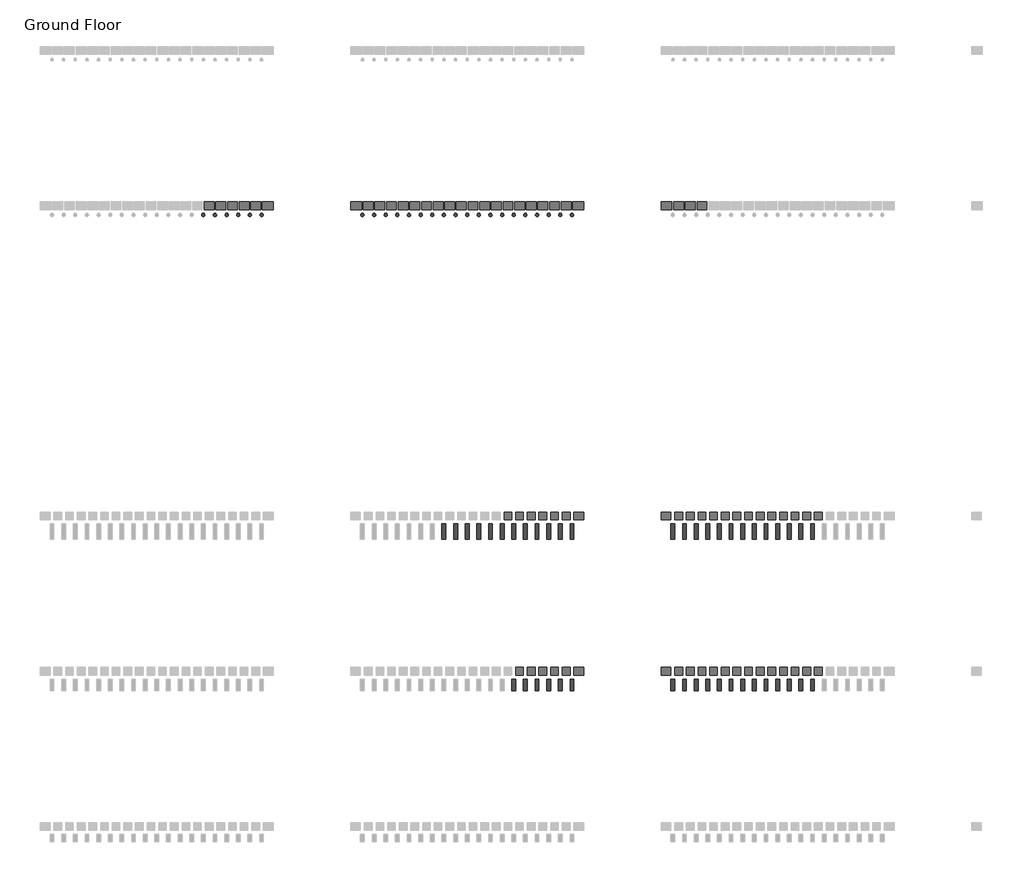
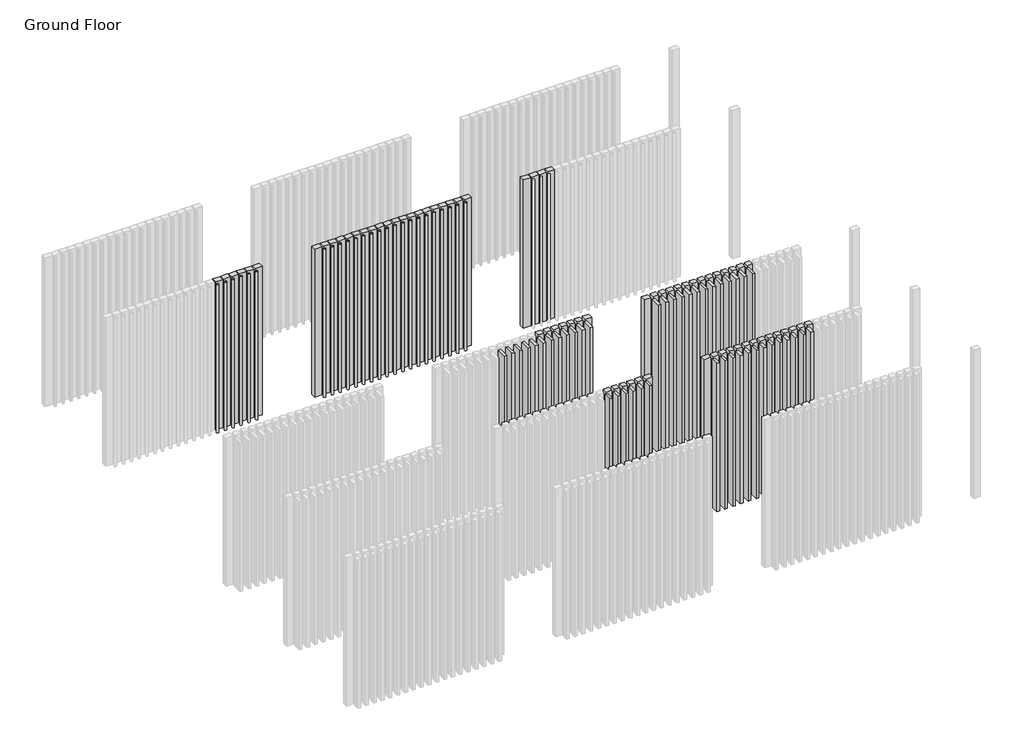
# One storey, part 17 of 350: 71 plates, 69 members.
"""IFC4 building model written with IfcOpenShell, lengths in millimetres."""

from ifc_helpers import new_model, si_unit, origin, place, context, project, spatial, transform, mapped, element, save
from components import rectangular_mullion_26362614, rectangular_mullion_afeb8ef8, rectangular_mullion_d8d867ca, empty_system_panel_empty_a8601f27, empty_system_panel_empty_23ba90fe, empty_system_panel_empty_02e968fa, empty_system_panel_empty_b0a57c37, empty_system_panel_empty_a9f5b765, empty_system_panel_empty_5da2f048

model = new_model("IFC4")

# Units and contexts
model_context = context("Model", 3, world=origin())
ifc_project = project(units=[si_unit("LENGTHUNIT", "METRE", prefix="MILLI")], contexts=[model_context])

# Site, building, storey
site = spatial("IfcSite", under=ifc_project)
building = spatial("IfcBuilding", under=site)
storey = spatial("IfcBuildingStorey", under=building, Name="Ground Floor", Elevation=0.0)

# Members
placement = place(None, origin())
rectangular_mullion_shape = rectangular_mullion_26362614(model_context)
element("IfcMember", 1, ObjectType="Rectangular Mullion : Batten_Aluminium_Modinex_AluBatten_50x150_SpottedGum", at=placement, inside=storey, context=model_context, shape_type="MappedRepresentation", body=[
    mapped(rectangular_mullion_shape, transform((14066.4361642, 24968.2978302, 0.0), x_axis=(1.0, 0.0, 0.0), y_axis=(0.0, -1.0, 0.0), z_axis=(0.0, 0.0, -1.0))),
])
element("IfcMember", 2, ObjectType="Rectangular Mullion : Batten_Aluminium_Modinex_AluBatten_50x150_SpottedGum", at=placement, inside=storey, context=model_context, shape_type="MappedRepresentation", body=[
    mapped(rectangular_mullion_shape, transform((14216.4361642, 24968.2978302, 0.0), x_axis=(1.0, 0.0, 0.0), y_axis=(0.0, -1.0, 0.0), z_axis=(0.0, 0.0, -1.0))),
])
element("IfcMember", 3, ObjectType="Rectangular Mullion : Batten_Aluminium_Modinex_AluBatten_50x150_SpottedGum", at=placement, inside=storey, context=model_context, shape_type="MappedRepresentation", body=[
    mapped(rectangular_mullion_shape, transform((14366.4361642, 24968.2978302, 0.0), x_axis=(1.0, 0.0, 0.0), y_axis=(0.0, -1.0, 0.0), z_axis=(0.0, 0.0, -1.0))),
])
element("IfcMember", 4, ObjectType="Rectangular Mullion : Batten_Aluminium_Modinex_AluBatten_50x150_SpottedGum", at=placement, inside=storey, context=model_context, shape_type="MappedRepresentation", body=[
    mapped(rectangular_mullion_shape, transform((14516.4361642, 24968.2978302, 0.0), x_axis=(1.0, 0.0, 0.0), y_axis=(0.0, -1.0, 0.0), z_axis=(0.0, 0.0, -1.0))),
])
element("IfcMember", 5, ObjectType="Rectangular Mullion : Batten_Aluminium_Modinex_AluBatten_50x150_SpottedGum", at=placement, inside=storey, context=model_context, shape_type="MappedRepresentation", body=[
    mapped(rectangular_mullion_shape, transform((14666.4361642, 24968.2978302, 0.0), x_axis=(1.0, 0.0, 0.0), y_axis=(0.0, -1.0, 0.0), z_axis=(0.0, 0.0, -1.0))),
])
element("IfcMember", 6, ObjectType="Rectangular Mullion : Batten_Aluminium_Modinex_AluBatten_50x150_SpottedGum", at=placement, inside=storey, context=model_context, shape_type="MappedRepresentation", body=[
    mapped(rectangular_mullion_shape, transform((14816.4361642, 24968.2978302, 0.0), x_axis=(1.0, 0.0, 0.0), y_axis=(0.0, -1.0, 0.0), z_axis=(0.0, 0.0, -1.0))),
])
element("IfcMember", 7, ObjectType="Rectangular Mullion : Batten_Aluminium_Modinex_AluBatten_50x150_SpottedGum", at=placement, inside=storey, context=model_context, shape_type="MappedRepresentation", body=[
    mapped(rectangular_mullion_shape, transform((14966.4361642, 24968.2978302, 0.0), x_axis=(1.0, 0.0, 0.0), y_axis=(0.0, -1.0, 0.0), z_axis=(0.0, 0.0, -1.0))),
])
element("IfcMember", 8, ObjectType="Rectangular Mullion : Batten_Aluminium_Modinex_AluBatten_50x150_SpottedGum", at=placement, inside=storey, context=model_context, shape_type="MappedRepresentation", body=[
    mapped(rectangular_mullion_shape, transform((15116.4361642, 24968.2978302, 0.0), x_axis=(1.0, 0.0, 0.0), y_axis=(0.0, -1.0, 0.0), z_axis=(0.0, 0.0, -1.0))),
])
element("IfcMember", 9, ObjectType="Rectangular Mullion : Batten_Aluminium_Modinex_AluBatten_50x150_SpottedGum", at=placement, inside=storey, context=model_context, shape_type="MappedRepresentation", body=[
    mapped(rectangular_mullion_shape, transform((15266.4361642, 24968.2978302, 0.0), x_axis=(1.0, 0.0, 0.0), y_axis=(0.0, -1.0, 0.0), z_axis=(0.0, 0.0, -1.0))),
])
element("IfcMember", 10, ObjectType="Rectangular Mullion : Batten_Aluminium_Modinex_AluBatten_50x150_SpottedGum", at=placement, inside=storey, context=model_context, shape_type="MappedRepresentation", body=[
    mapped(rectangular_mullion_shape, transform((15416.4361642, 24968.2978302, 0.0), x_axis=(1.0, 0.0, 0.0), y_axis=(0.0, -1.0, 0.0), z_axis=(0.0, 0.0, -1.0))),
])
element("IfcMember", 11, ObjectType="Rectangular Mullion : Batten_Aluminium_Modinex_AluBatten_50x150_SpottedGum", at=placement, inside=storey, context=model_context, shape_type="MappedRepresentation", body=[
    mapped(rectangular_mullion_shape, transform((15566.4361642, 24968.2978302, 0.0), x_axis=(1.0, 0.0, 0.0), y_axis=(0.0, -1.0, 0.0), z_axis=(0.0, 0.0, -1.0))),
])
element("IfcMember", 12, ObjectType="Rectangular Mullion : Batten_Aluminium_Modinex_AluBatten_50x150_SpottedGum", at=placement, inside=storey, context=model_context, shape_type="MappedRepresentation", body=[
    mapped(rectangular_mullion_shape, transform((15716.4361642, 24968.2978302, 0.0), x_axis=(1.0, 0.0, 0.0), y_axis=(0.0, -1.0, 0.0), z_axis=(0.0, 0.0, -1.0))),
])
element("IfcMember", 13, ObjectType="Rectangular Mullion : Batten_Aluminium_Modinex_AluBatten_50x150_SpottedGum", at=placement, inside=storey, context=model_context, shape_type="MappedRepresentation", body=[
    mapped(rectangular_mullion_shape, transform((15866.4361642, 24968.2978302, 0.0), x_axis=(1.0, 0.0, 0.0), y_axis=(0.0, -1.0, 0.0), z_axis=(0.0, 0.0, -1.0))),
])
element("IfcMember", 14, ObjectType="Rectangular Mullion : Batten_Aluminium_Modinex_AluBatten_50x150_EnglishOak", at=placement, inside=storey, context=model_context, shape_type="MappedRepresentation", body=[
    mapped(rectangular_mullion_shape, transform((12016.4361642, 24968.2978302, 0.0), x_axis=(1.0, 0.0, 0.0), y_axis=(0.0, -1.0, 0.0), z_axis=(0.0, 0.0, -1.0))),
])
element("IfcMember", 15, ObjectType="Rectangular Mullion : Batten_Aluminium_Modinex_AluBatten_50x150_EnglishOak", at=placement, inside=storey, context=model_context, shape_type="MappedRepresentation", body=[
    mapped(rectangular_mullion_shape, transform((12166.4361642, 24968.2978302, 0.0), x_axis=(1.0, 0.0, 0.0), y_axis=(0.0, -1.0, 0.0), z_axis=(0.0, 0.0, -1.0))),
])
element("IfcMember", 16, ObjectType="Rectangular Mullion : Batten_Aluminium_Modinex_AluBatten_50x150_EnglishOak", at=placement, inside=storey, context=model_context, shape_type="MappedRepresentation", body=[
    mapped(rectangular_mullion_shape, transform((12316.4361642, 24968.2978302, 0.0), x_axis=(1.0, 0.0, 0.0), y_axis=(0.0, -1.0, 0.0), z_axis=(0.0, 0.0, -1.0))),
])
element("IfcMember", 17, ObjectType="Rectangular Mullion : Batten_Aluminium_Modinex_AluBatten_50x150_EnglishOak", at=placement, inside=storey, context=model_context, shape_type="MappedRepresentation", body=[
    mapped(rectangular_mullion_shape, transform((12466.4361642, 24968.2978302, 0.0), x_axis=(1.0, 0.0, 0.0), y_axis=(0.0, -1.0, 0.0), z_axis=(0.0, 0.0, -1.0))),
])
element("IfcMember", 18, ObjectType="Rectangular Mullion : Batten_Aluminium_Modinex_AluBatten_50x150_EnglishOak", at=placement, inside=storey, context=model_context, shape_type="MappedRepresentation", body=[
    mapped(rectangular_mullion_shape, transform((12616.4361642, 24968.2978302, 0.0), x_axis=(1.0, 0.0, 0.0), y_axis=(0.0, -1.0, 0.0), z_axis=(0.0, 0.0, -1.0))),
])
element("IfcMember", 19, ObjectType="Rectangular Mullion : Batten_Aluminium_Modinex_AluBatten_50x150_EnglishOak", at=placement, inside=storey, context=model_context, shape_type="MappedRepresentation", body=[
    mapped(rectangular_mullion_shape, transform((12766.4361642, 24968.2978302, 0.0), x_axis=(1.0, 0.0, 0.0), y_axis=(0.0, -1.0, 0.0), z_axis=(0.0, 0.0, -1.0))),
])
rectangular_mullion_2_shape = rectangular_mullion_afeb8ef8(model_context)
element("IfcMember", 20, ObjectType="Rectangular Mullion : Batten_Aluminium_Modinex_AluBatten_50x200_EnglishOak", at=placement, inside=storey, context=model_context, shape_type="MappedRepresentation", body=[
    mapped(rectangular_mullion_2_shape, transform((11116.4361642, 26968.2978302, 0.0), x_axis=(1.0, 0.0, 0.0), y_axis=(0.0, -1.0, 0.0), z_axis=(0.0, 0.0, -1.0))),
])
element("IfcMember", 21, ObjectType="Rectangular Mullion : Batten_Aluminium_Modinex_AluBatten_50x200_EnglishOak", at=placement, inside=storey, context=model_context, shape_type="MappedRepresentation", body=[
    mapped(rectangular_mullion_2_shape, transform((11266.4361642, 26968.2978302, 0.0), x_axis=(1.0, 0.0, 0.0), y_axis=(0.0, -1.0, 0.0), z_axis=(0.0, 0.0, -1.0))),
])
element("IfcMember", 22, ObjectType="Rectangular Mullion : Batten_Aluminium_Modinex_AluBatten_50x200_EnglishOak", at=placement, inside=storey, context=model_context, shape_type="MappedRepresentation", body=[
    mapped(rectangular_mullion_2_shape, transform((11416.4361642, 26968.2978302, 0.0), x_axis=(1.0, 0.0, 0.0), y_axis=(0.0, -1.0, 0.0), z_axis=(0.0, 0.0, -1.0))),
])
element("IfcMember", 23, ObjectType="Rectangular Mullion : Batten_Aluminium_Modinex_AluBatten_50x200_EnglishOak", at=placement, inside=storey, context=model_context, shape_type="MappedRepresentation", body=[
    mapped(rectangular_mullion_2_shape, transform((11566.4361642, 26968.2978302, 0.0), x_axis=(1.0, 0.0, 0.0), y_axis=(0.0, -1.0, 0.0), z_axis=(0.0, 0.0, -1.0))),
])
element("IfcMember", 24, ObjectType="Rectangular Mullion : Batten_Aluminium_Modinex_AluBatten_50x200_EnglishOak", at=placement, inside=storey, context=model_context, shape_type="MappedRepresentation", body=[
    mapped(rectangular_mullion_2_shape, transform((11716.4361642, 26968.2978302, 0.0), x_axis=(1.0, 0.0, 0.0), y_axis=(0.0, -1.0, 0.0), z_axis=(0.0, 0.0, -1.0))),
])
element("IfcMember", 25, ObjectType="Rectangular Mullion : Batten_Aluminium_Modinex_AluBatten_50x200_EnglishOak", at=placement, inside=storey, context=model_context, shape_type="MappedRepresentation", body=[
    mapped(rectangular_mullion_2_shape, transform((11866.4361642, 26968.2978302, 0.0), x_axis=(1.0, 0.0, 0.0), y_axis=(0.0, -1.0, 0.0), z_axis=(0.0, 0.0, -1.0))),
])
element("IfcMember", 26, ObjectType="Rectangular Mullion : Batten_Aluminium_Modinex_AluBatten_50x200_EnglishOak", at=placement, inside=storey, context=model_context, shape_type="MappedRepresentation", body=[
    mapped(rectangular_mullion_2_shape, transform((12016.4361642, 26968.2978302, 0.0), x_axis=(1.0, 0.0, 0.0), y_axis=(0.0, -1.0, 0.0), z_axis=(0.0, 0.0, -1.0))),
])
element("IfcMember", 27, ObjectType="Rectangular Mullion : Batten_Aluminium_Modinex_AluBatten_50x200_EnglishOak", at=placement, inside=storey, context=model_context, shape_type="MappedRepresentation", body=[
    mapped(rectangular_mullion_2_shape, transform((12166.4361642, 26968.2978302, 0.0), x_axis=(1.0, 0.0, 0.0), y_axis=(0.0, -1.0, 0.0), z_axis=(0.0, 0.0, -1.0))),
])
element("IfcMember", 28, ObjectType="Rectangular Mullion : Batten_Aluminium_Modinex_AluBatten_50x200_EnglishOak", at=placement, inside=storey, context=model_context, shape_type="MappedRepresentation", body=[
    mapped(rectangular_mullion_2_shape, transform((12316.4361642, 26968.2978302, 0.0), x_axis=(1.0, 0.0, 0.0), y_axis=(0.0, -1.0, 0.0), z_axis=(0.0, 0.0, -1.0))),
])
element("IfcMember", 29, ObjectType="Rectangular Mullion : Batten_Aluminium_Modinex_AluBatten_50x200_EnglishOak", at=placement, inside=storey, context=model_context, shape_type="MappedRepresentation", body=[
    mapped(rectangular_mullion_2_shape, transform((12466.4361642, 26968.2978302, 0.0), x_axis=(1.0, 0.0, 0.0), y_axis=(0.0, -1.0, 0.0), z_axis=(0.0, 0.0, -1.0))),
])
element("IfcMember", 30, ObjectType="Rectangular Mullion : Batten_Aluminium_Modinex_AluBatten_50x200_EnglishOak", at=placement, inside=storey, context=model_context, shape_type="MappedRepresentation", body=[
    mapped(rectangular_mullion_2_shape, transform((12616.4361642, 26968.2978302, 0.0), x_axis=(1.0, 0.0, 0.0), y_axis=(0.0, -1.0, 0.0), z_axis=(0.0, 0.0, -1.0))),
])
element("IfcMember", 31, ObjectType="Rectangular Mullion : Batten_Aluminium_Modinex_AluBatten_50x200_EnglishOak", at=placement, inside=storey, context=model_context, shape_type="MappedRepresentation", body=[
    mapped(rectangular_mullion_2_shape, transform((12766.4361642, 26968.2978302, 0.0), x_axis=(1.0, 0.0, 0.0), y_axis=(0.0, -1.0, 0.0), z_axis=(0.0, 0.0, -1.0))),
])
element("IfcMember", 32, ObjectType="Rectangular Mullion : Batten_Aluminium_Modinex_AluBatten_50x200_SpottedGum", at=placement, inside=storey, context=model_context, shape_type="MappedRepresentation", body=[
    mapped(rectangular_mullion_2_shape, transform((14066.4361642, 26968.2978302, 0.0), x_axis=(1.0, 0.0, 0.0), y_axis=(0.0, -1.0, 0.0), z_axis=(0.0, 0.0, -1.0))),
])
element("IfcMember", 33, ObjectType="Rectangular Mullion : Batten_Aluminium_Modinex_AluBatten_50x200_SpottedGum", at=placement, inside=storey, context=model_context, shape_type="MappedRepresentation", body=[
    mapped(rectangular_mullion_2_shape, transform((14216.4361642, 26968.2978302, 0.0), x_axis=(1.0, 0.0, 0.0), y_axis=(0.0, -1.0, 0.0), z_axis=(0.0, 0.0, -1.0))),
])
element("IfcMember", 34, ObjectType="Rectangular Mullion : Batten_Aluminium_Modinex_AluBatten_50x200_SpottedGum", at=placement, inside=storey, context=model_context, shape_type="MappedRepresentation", body=[
    mapped(rectangular_mullion_2_shape, transform((14366.4361642, 26968.2978302, 0.0), x_axis=(1.0, 0.0, 0.0), y_axis=(0.0, -1.0, 0.0), z_axis=(0.0, 0.0, -1.0))),
])
element("IfcMember", 35, ObjectType="Rectangular Mullion : Batten_Aluminium_Modinex_AluBatten_50x200_SpottedGum", at=placement, inside=storey, context=model_context, shape_type="MappedRepresentation", body=[
    mapped(rectangular_mullion_2_shape, transform((14516.4361642, 26968.2978302, 0.0), x_axis=(1.0, 0.0, 0.0), y_axis=(0.0, -1.0, 0.0), z_axis=(0.0, 0.0, -1.0))),
])
element("IfcMember", 36, ObjectType="Rectangular Mullion : Batten_Aluminium_Modinex_AluBatten_50x200_SpottedGum", at=placement, inside=storey, context=model_context, shape_type="MappedRepresentation", body=[
    mapped(rectangular_mullion_2_shape, transform((14666.4361642, 26968.2978302, 0.0), x_axis=(1.0, 0.0, 0.0), y_axis=(0.0, -1.0, 0.0), z_axis=(0.0, 0.0, -1.0))),
])
element("IfcMember", 37, ObjectType="Rectangular Mullion : Batten_Aluminium_Modinex_AluBatten_50x200_SpottedGum", at=placement, inside=storey, context=model_context, shape_type="MappedRepresentation", body=[
    mapped(rectangular_mullion_2_shape, transform((14816.4361642, 26968.2978302, 0.0), x_axis=(1.0, 0.0, 0.0), y_axis=(0.0, -1.0, 0.0), z_axis=(0.0, 0.0, -1.0))),
])
element("IfcMember", 38, ObjectType="Rectangular Mullion : Batten_Aluminium_Modinex_AluBatten_50x200_SpottedGum", at=placement, inside=storey, context=model_context, shape_type="MappedRepresentation", body=[
    mapped(rectangular_mullion_2_shape, transform((14966.4361642, 26968.2978302, 0.0), x_axis=(1.0, 0.0, 0.0), y_axis=(0.0, -1.0, 0.0), z_axis=(0.0, 0.0, -1.0))),
])
element("IfcMember", 39, ObjectType="Rectangular Mullion : Batten_Aluminium_Modinex_AluBatten_50x200_SpottedGum", at=placement, inside=storey, context=model_context, shape_type="MappedRepresentation", body=[
    mapped(rectangular_mullion_2_shape, transform((15116.4361642, 26968.2978302, 0.0), x_axis=(1.0, 0.0, 0.0), y_axis=(0.0, -1.0, 0.0), z_axis=(0.0, 0.0, -1.0))),
])
element("IfcMember", 40, ObjectType="Rectangular Mullion : Batten_Aluminium_Modinex_AluBatten_50x200_SpottedGum", at=placement, inside=storey, context=model_context, shape_type="MappedRepresentation", body=[
    mapped(rectangular_mullion_2_shape, transform((15266.4361642, 26968.2978302, 0.0), x_axis=(1.0, 0.0, 0.0), y_axis=(0.0, -1.0, 0.0), z_axis=(0.0, 0.0, -1.0))),
])
element("IfcMember", 41, ObjectType="Rectangular Mullion : Batten_Aluminium_Modinex_AluBatten_50x200_SpottedGum", at=placement, inside=storey, context=model_context, shape_type="MappedRepresentation", body=[
    mapped(rectangular_mullion_2_shape, transform((15416.4361642, 26968.2978302, 0.0), x_axis=(1.0, 0.0, 0.0), y_axis=(0.0, -1.0, 0.0), z_axis=(0.0, 0.0, -1.0))),
])
element("IfcMember", 42, ObjectType="Rectangular Mullion : Batten_Aluminium_Modinex_AluBatten_50x200_SpottedGum", at=placement, inside=storey, context=model_context, shape_type="MappedRepresentation", body=[
    mapped(rectangular_mullion_2_shape, transform((15566.4361642, 26968.2978302, 0.0), x_axis=(1.0, 0.0, 0.0), y_axis=(0.0, -1.0, 0.0), z_axis=(0.0, 0.0, -1.0))),
])
element("IfcMember", 43, ObjectType="Rectangular Mullion : Batten_Aluminium_Modinex_AluBatten_50x200_SpottedGum", at=placement, inside=storey, context=model_context, shape_type="MappedRepresentation", body=[
    mapped(rectangular_mullion_2_shape, transform((15716.4361642, 26968.2978302, 0.0), x_axis=(1.0, 0.0, 0.0), y_axis=(0.0, -1.0, 0.0), z_axis=(0.0, 0.0, -1.0))),
])
element("IfcMember", 44, ObjectType="Rectangular Mullion : Batten_Aluminium_Modinex_AluBatten_50x200_SpottedGum", at=placement, inside=storey, context=model_context, shape_type="MappedRepresentation", body=[
    mapped(rectangular_mullion_2_shape, transform((15866.4361642, 26968.2978302, 0.0), x_axis=(1.0, 0.0, 0.0), y_axis=(0.0, -1.0, 0.0), z_axis=(0.0, 0.0, -1.0))),
])
rectangular_mullion_3_shape = rectangular_mullion_d8d867ca(model_context)
element("IfcMember", 45, ObjectType="Rectangular Mullion : Batten_Aluminium_Modinex_Austratus_Linear_Dowel_Cedar", at=placement, inside=storey, context=model_context, shape_type="MappedRepresentation", body=[
    mapped(rectangular_mullion_3_shape, transform((8016.4361642, 30968.2978302, 0.0), x_axis=(1.0, 0.0, 0.0), y_axis=(0.0, -1.0, 0.0), z_axis=(0.0, 0.0, -1.0))),
])
element("IfcMember", 46, ObjectType="Rectangular Mullion : Batten_Aluminium_Modinex_Austratus_Linear_Dowel_Cedar", at=placement, inside=storey, context=model_context, shape_type="MappedRepresentation", body=[
    mapped(rectangular_mullion_3_shape, transform((8166.4361642, 30968.2978302, 0.0), x_axis=(1.0, 0.0, 0.0), y_axis=(0.0, -1.0, 0.0), z_axis=(0.0, 0.0, -1.0))),
])
element("IfcMember", 47, ObjectType="Rectangular Mullion : Batten_Aluminium_Modinex_Austratus_Linear_Dowel_Cedar", at=placement, inside=storey, context=model_context, shape_type="MappedRepresentation", body=[
    mapped(rectangular_mullion_3_shape, transform((8316.4361642, 30968.2978302, 0.0), x_axis=(1.0, 0.0, 0.0), y_axis=(0.0, -1.0, 0.0), z_axis=(0.0, 0.0, -1.0))),
])
element("IfcMember", 48, ObjectType="Rectangular Mullion : Batten_Aluminium_Modinex_Austratus_Linear_Dowel_Cedar", at=placement, inside=storey, context=model_context, shape_type="MappedRepresentation", body=[
    mapped(rectangular_mullion_3_shape, transform((8466.4361642, 30968.2978302, 0.0), x_axis=(1.0, 0.0, 0.0), y_axis=(0.0, -1.0, 0.0), z_axis=(0.0, 0.0, -1.0))),
])
element("IfcMember", 49, ObjectType="Rectangular Mullion : Batten_Aluminium_Modinex_Austratus_Linear_Dowel_Cedar", at=placement, inside=storey, context=model_context, shape_type="MappedRepresentation", body=[
    mapped(rectangular_mullion_3_shape, transform((8616.4361642, 30968.2978302, 0.0), x_axis=(1.0, 0.0, 0.0), y_axis=(0.0, -1.0, 0.0), z_axis=(0.0, 0.0, -1.0))),
])
element("IfcMember", 50, ObjectType="Rectangular Mullion : Batten_Aluminium_Modinex_Austratus_Linear_Dowel_Cedar", at=placement, inside=storey, context=model_context, shape_type="MappedRepresentation", body=[
    mapped(rectangular_mullion_3_shape, transform((8766.4361642, 30968.2978302, 0.0), x_axis=(1.0, 0.0, 0.0), y_axis=(0.0, -1.0, 0.0), z_axis=(0.0, 0.0, -1.0))),
])
element("IfcMember", 51, ObjectType="Rectangular Mullion : Batten_Aluminium_Modinex_Austratus_Linear_Dowel_EnglishOak", at=placement, inside=storey, context=model_context, shape_type="MappedRepresentation", body=[
    mapped(rectangular_mullion_3_shape, transform((10066.4361642, 30968.2978302, 0.0), x_axis=(1.0, 0.0, 0.0), y_axis=(0.0, -1.0, 0.0), z_axis=(0.0, 0.0, -1.0))),
])
element("IfcMember", 52, ObjectType="Rectangular Mullion : Batten_Aluminium_Modinex_Austratus_Linear_Dowel_EnglishOak", at=placement, inside=storey, context=model_context, shape_type="MappedRepresentation", body=[
    mapped(rectangular_mullion_3_shape, transform((10216.4361642, 30968.2978302, 0.0), x_axis=(1.0, 0.0, 0.0), y_axis=(0.0, -1.0, 0.0), z_axis=(0.0, 0.0, -1.0))),
])
element("IfcMember", 53, ObjectType="Rectangular Mullion : Batten_Aluminium_Modinex_Austratus_Linear_Dowel_EnglishOak", at=placement, inside=storey, context=model_context, shape_type="MappedRepresentation", body=[
    mapped(rectangular_mullion_3_shape, transform((10366.4361642, 30968.2978302, 0.0), x_axis=(1.0, 0.0, 0.0), y_axis=(0.0, -1.0, 0.0), z_axis=(0.0, 0.0, -1.0))),
])
element("IfcMember", 54, ObjectType="Rectangular Mullion : Batten_Aluminium_Modinex_Austratus_Linear_Dowel_EnglishOak", at=placement, inside=storey, context=model_context, shape_type="MappedRepresentation", body=[
    mapped(rectangular_mullion_3_shape, transform((10516.4361642, 30968.2978302, 0.0), x_axis=(1.0, 0.0, 0.0), y_axis=(0.0, -1.0, 0.0), z_axis=(0.0, 0.0, -1.0))),
])
element("IfcMember", 55, ObjectType="Rectangular Mullion : Batten_Aluminium_Modinex_Austratus_Linear_Dowel_EnglishOak", at=placement, inside=storey, context=model_context, shape_type="MappedRepresentation", body=[
    mapped(rectangular_mullion_3_shape, transform((10666.4361642, 30968.2978302, 0.0), x_axis=(1.0, 0.0, 0.0), y_axis=(0.0, -1.0, 0.0), z_axis=(0.0, 0.0, -1.0))),
])
element("IfcMember", 56, ObjectType="Rectangular Mullion : Batten_Aluminium_Modinex_Austratus_Linear_Dowel_EnglishOak", at=placement, inside=storey, context=model_context, shape_type="MappedRepresentation", body=[
    mapped(rectangular_mullion_3_shape, transform((10816.4361642, 30968.2978302, 0.0), x_axis=(1.0, 0.0, 0.0), y_axis=(0.0, -1.0, 0.0), z_axis=(0.0, 0.0, -1.0))),
])
element("IfcMember", 57, ObjectType="Rectangular Mullion : Batten_Aluminium_Modinex_Austratus_Linear_Dowel_EnglishOak", at=placement, inside=storey, context=model_context, shape_type="MappedRepresentation", body=[
    mapped(rectangular_mullion_3_shape, transform((10966.4361642, 30968.2978302, 0.0), x_axis=(1.0, 0.0, 0.0), y_axis=(0.0, -1.0, 0.0), z_axis=(0.0, 0.0, -1.0))),
])
element("IfcMember", 58, ObjectType="Rectangular Mullion : Batten_Aluminium_Modinex_Austratus_Linear_Dowel_EnglishOak", at=placement, inside=storey, context=model_context, shape_type="MappedRepresentation", body=[
    mapped(rectangular_mullion_3_shape, transform((11116.4361642, 30968.2978302, 0.0), x_axis=(1.0, 0.0, 0.0), y_axis=(0.0, -1.0, 0.0), z_axis=(0.0, 0.0, -1.0))),
])
element("IfcMember", 59, ObjectType="Rectangular Mullion : Batten_Aluminium_Modinex_Austratus_Linear_Dowel_EnglishOak", at=placement, inside=storey, context=model_context, shape_type="MappedRepresentation", body=[
    mapped(rectangular_mullion_3_shape, transform((11266.4361642, 30968.2978302, 0.0), x_axis=(1.0, 0.0, 0.0), y_axis=(0.0, -1.0, 0.0), z_axis=(0.0, 0.0, -1.0))),
])
element("IfcMember", 60, ObjectType="Rectangular Mullion : Batten_Aluminium_Modinex_Austratus_Linear_Dowel_EnglishOak", at=placement, inside=storey, context=model_context, shape_type="MappedRepresentation", body=[
    mapped(rectangular_mullion_3_shape, transform((11416.4361642, 30968.2978302, 0.0), x_axis=(1.0, 0.0, 0.0), y_axis=(0.0, -1.0, 0.0), z_axis=(0.0, 0.0, -1.0))),
])
element("IfcMember", 61, ObjectType="Rectangular Mullion : Batten_Aluminium_Modinex_Austratus_Linear_Dowel_EnglishOak", at=placement, inside=storey, context=model_context, shape_type="MappedRepresentation", body=[
    mapped(rectangular_mullion_3_shape, transform((11566.4361642, 30968.2978302, 0.0), x_axis=(1.0, 0.0, 0.0), y_axis=(0.0, -1.0, 0.0), z_axis=(0.0, 0.0, -1.0))),
])
element("IfcMember", 62, ObjectType="Rectangular Mullion : Batten_Aluminium_Modinex_Austratus_Linear_Dowel_EnglishOak", at=placement, inside=storey, context=model_context, shape_type="MappedRepresentation", body=[
    mapped(rectangular_mullion_3_shape, transform((11716.4361642, 30968.2978302, 0.0), x_axis=(1.0, 0.0, 0.0), y_axis=(0.0, -1.0, 0.0), z_axis=(0.0, 0.0, -1.0))),
])
element("IfcMember", 63, ObjectType="Rectangular Mullion : Batten_Aluminium_Modinex_Austratus_Linear_Dowel_EnglishOak", at=placement, inside=storey, context=model_context, shape_type="MappedRepresentation", body=[
    mapped(rectangular_mullion_3_shape, transform((11866.4361642, 30968.2978302, 0.0), x_axis=(1.0, 0.0, 0.0), y_axis=(0.0, -1.0, 0.0), z_axis=(0.0, 0.0, -1.0))),
])
element("IfcMember", 64, ObjectType="Rectangular Mullion : Batten_Aluminium_Modinex_Austratus_Linear_Dowel_EnglishOak", at=placement, inside=storey, context=model_context, shape_type="MappedRepresentation", body=[
    mapped(rectangular_mullion_3_shape, transform((12016.4361642, 30968.2978302, 0.0), x_axis=(1.0, 0.0, 0.0), y_axis=(0.0, -1.0, 0.0), z_axis=(0.0, 0.0, -1.0))),
])
element("IfcMember", 65, ObjectType="Rectangular Mullion : Batten_Aluminium_Modinex_Austratus_Linear_Dowel_EnglishOak", at=placement, inside=storey, context=model_context, shape_type="MappedRepresentation", body=[
    mapped(rectangular_mullion_3_shape, transform((12166.4361642, 30968.2978302, 0.0), x_axis=(1.0, 0.0, 0.0), y_axis=(0.0, -1.0, 0.0), z_axis=(0.0, 0.0, -1.0))),
])
element("IfcMember", 66, ObjectType="Rectangular Mullion : Batten_Aluminium_Modinex_Austratus_Linear_Dowel_EnglishOak", at=placement, inside=storey, context=model_context, shape_type="MappedRepresentation", body=[
    mapped(rectangular_mullion_3_shape, transform((12316.4361642, 30968.2978302, 0.0), x_axis=(1.0, 0.0, 0.0), y_axis=(0.0, -1.0, 0.0), z_axis=(0.0, 0.0, -1.0))),
])
element("IfcMember", 67, ObjectType="Rectangular Mullion : Batten_Aluminium_Modinex_Austratus_Linear_Dowel_EnglishOak", at=placement, inside=storey, context=model_context, shape_type="MappedRepresentation", body=[
    mapped(rectangular_mullion_3_shape, transform((12466.4361642, 30968.2978302, 0.0), x_axis=(1.0, 0.0, 0.0), y_axis=(0.0, -1.0, 0.0), z_axis=(0.0, 0.0, -1.0))),
])
element("IfcMember", 68, ObjectType="Rectangular Mullion : Batten_Aluminium_Modinex_Austratus_Linear_Dowel_EnglishOak", at=placement, inside=storey, context=model_context, shape_type="MappedRepresentation", body=[
    mapped(rectangular_mullion_3_shape, transform((12616.4361642, 30968.2978302, 0.0), x_axis=(1.0, 0.0, 0.0), y_axis=(0.0, -1.0, 0.0), z_axis=(0.0, 0.0, -1.0))),
])
element("IfcMember", 69, ObjectType="Rectangular Mullion : Batten_Aluminium_Modinex_Austratus_Linear_Dowel_EnglishOak", at=placement, inside=storey, context=model_context, shape_type="MappedRepresentation", body=[
    mapped(rectangular_mullion_3_shape, transform((12766.4361642, 30968.2978302, 0.0), x_axis=(1.0, 0.0, 0.0), y_axis=(0.0, -1.0, 0.0), z_axis=(0.0, 0.0, -1.0))),
])

# Plates
empty_system_panel_empty_shape = empty_system_panel_empty_a8601f27(model_context)
element("IfcPlate", 70, ObjectType="Empty System Panel : Empty", at=placement, inside=storey, context=model_context, shape_type="MappedRepresentation", body=[
    mapped(empty_system_panel_empty_shape, transform((13978.9361641, 24968.2978302, 0.0), x_axis=(1.0, 0.0, 0.0), y_axis=(0.0, 1.0, 0.0), z_axis=(0.0, 0.0, 1.0))),
])
element("IfcPlate", 71, ObjectType="Empty System Panel : Empty", at=placement, inside=storey, context=model_context, shape_type="MappedRepresentation", body=[
    mapped(empty_system_panel_empty_shape, transform((13978.9361641, 26968.2978302, 0.0), x_axis=(1.0, 0.0, 0.0), y_axis=(0.0, 1.0, 0.0), z_axis=(0.0, 0.0, 1.0))),
])
empty_system_panel_empty_2_shape = empty_system_panel_empty_23ba90fe(model_context)
element("IfcPlate", 72, ObjectType="Empty System Panel : Empty", at=placement, inside=storey, context=model_context, shape_type="MappedRepresentation", body=[
    mapped(empty_system_panel_empty_2_shape, transform((12091.4361642, 24968.2978302, 0.0), x_axis=(1.0, 0.0, 0.0), y_axis=(0.0, 1.0, 0.0), z_axis=(0.0, 0.0, 1.0))),
])
element("IfcPlate", 73, ObjectType="Empty System Panel : Empty", at=placement, inside=storey, context=model_context, shape_type="MappedRepresentation", body=[
    mapped(empty_system_panel_empty_2_shape, transform((12241.4361642, 24968.2978302, 0.0), x_axis=(1.0, 0.0, 0.0), y_axis=(0.0, 1.0, 0.0), z_axis=(0.0, 0.0, 1.0))),
])
element("IfcPlate", 74, ObjectType="Empty System Panel : Empty", at=placement, inside=storey, context=model_context, shape_type="MappedRepresentation", body=[
    mapped(empty_system_panel_empty_2_shape, transform((12391.4361642, 24968.2978302, 0.0), x_axis=(1.0, 0.0, 0.0), y_axis=(0.0, 1.0, 0.0), z_axis=(0.0, 0.0, 1.0))),
])
element("IfcPlate", 75, ObjectType="Empty System Panel : Empty", at=placement, inside=storey, context=model_context, shape_type="MappedRepresentation", body=[
    mapped(empty_system_panel_empty_2_shape, transform((12541.4361642, 24968.2978302, 0.0), x_axis=(1.0, 0.0, 0.0), y_axis=(0.0, 1.0, 0.0), z_axis=(0.0, 0.0, 1.0))),
])
element("IfcPlate", 76, ObjectType="Empty System Panel : Empty", at=placement, inside=storey, context=model_context, shape_type="MappedRepresentation", body=[
    mapped(empty_system_panel_empty_2_shape, transform((12691.4361642, 24968.2978302, 0.0), x_axis=(1.0, 0.0, 0.0), y_axis=(0.0, 1.0, 0.0), z_axis=(0.0, 0.0, 1.0))),
])
element("IfcPlate", 77, ObjectType="Empty System Panel : Empty", at=placement, inside=storey, context=model_context, shape_type="MappedRepresentation", body=[
    mapped(empty_system_panel_empty_2_shape, transform((14141.4361642, 24968.2978302, 0.0), x_axis=(1.0, 0.0, 0.0), y_axis=(0.0, 1.0, 0.0), z_axis=(0.0, 0.0, 1.0))),
])
element("IfcPlate", 78, ObjectType="Empty System Panel : Empty", at=placement, inside=storey, context=model_context, shape_type="MappedRepresentation", body=[
    mapped(empty_system_panel_empty_2_shape, transform((14291.4361642, 24968.2978302, 0.0), x_axis=(1.0, 0.0, 0.0), y_axis=(0.0, 1.0, 0.0), z_axis=(0.0, 0.0, 1.0))),
])
element("IfcPlate", 79, ObjectType="Empty System Panel : Empty", at=placement, inside=storey, context=model_context, shape_type="MappedRepresentation", body=[
    mapped(empty_system_panel_empty_2_shape, transform((14441.4361642, 24968.2978302, 0.0), x_axis=(1.0, 0.0, 0.0), y_axis=(0.0, 1.0, 0.0), z_axis=(0.0, 0.0, 1.0))),
])
element("IfcPlate", 80, ObjectType="Empty System Panel : Empty", at=placement, inside=storey, context=model_context, shape_type="MappedRepresentation", body=[
    mapped(empty_system_panel_empty_2_shape, transform((14591.4361642, 24968.2978302, 0.0), x_axis=(1.0, 0.0, 0.0), y_axis=(0.0, 1.0, 0.0), z_axis=(0.0, 0.0, 1.0))),
])
element("IfcPlate", 81, ObjectType="Empty System Panel : Empty", at=placement, inside=storey, context=model_context, shape_type="MappedRepresentation", body=[
    mapped(empty_system_panel_empty_2_shape, transform((14741.4361642, 24968.2978302, 0.0), x_axis=(1.0, 0.0, 0.0), y_axis=(0.0, 1.0, 0.0), z_axis=(0.0, 0.0, 1.0))),
])
element("IfcPlate", 82, ObjectType="Empty System Panel : Empty", at=placement, inside=storey, context=model_context, shape_type="MappedRepresentation", body=[
    mapped(empty_system_panel_empty_2_shape, transform((14891.4361642, 24968.2978302, 0.0), x_axis=(1.0, 0.0, 0.0), y_axis=(0.0, 1.0, 0.0), z_axis=(0.0, 0.0, 1.0))),
])
element("IfcPlate", 83, ObjectType="Empty System Panel : Empty", at=placement, inside=storey, context=model_context, shape_type="MappedRepresentation", body=[
    mapped(empty_system_panel_empty_2_shape, transform((15041.4361642, 24968.2978302, 0.0), x_axis=(1.0, 0.0, 0.0), y_axis=(0.0, 1.0, 0.0), z_axis=(0.0, 0.0, 1.0))),
])
element("IfcPlate", 84, ObjectType="Empty System Panel : Empty", at=placement, inside=storey, context=model_context, shape_type="MappedRepresentation", body=[
    mapped(empty_system_panel_empty_2_shape, transform((15191.4361642, 24968.2978302, 0.0), x_axis=(1.0, 0.0, 0.0), y_axis=(0.0, 1.0, 0.0), z_axis=(0.0, 0.0, 1.0))),
])
element("IfcPlate", 85, ObjectType="Empty System Panel : Empty", at=placement, inside=storey, context=model_context, shape_type="MappedRepresentation", body=[
    mapped(empty_system_panel_empty_2_shape, transform((15341.4361642, 24968.2978302, 0.0), x_axis=(1.0, 0.0, 0.0), y_axis=(0.0, 1.0, 0.0), z_axis=(0.0, 0.0, 1.0))),
])
element("IfcPlate", 86, ObjectType="Empty System Panel : Empty", at=placement, inside=storey, context=model_context, shape_type="MappedRepresentation", body=[
    mapped(empty_system_panel_empty_2_shape, transform((15491.4361642, 24968.2978302, 0.0), x_axis=(1.0, 0.0, 0.0), y_axis=(0.0, 1.0, 0.0), z_axis=(0.0, 0.0, 1.0))),
])
element("IfcPlate", 87, ObjectType="Empty System Panel : Empty", at=placement, inside=storey, context=model_context, shape_type="MappedRepresentation", body=[
    mapped(empty_system_panel_empty_2_shape, transform((15641.4361642, 24968.2978302, 0.0), x_axis=(1.0, 0.0, 0.0), y_axis=(0.0, 1.0, 0.0), z_axis=(0.0, 0.0, 1.0))),
])
element("IfcPlate", 88, ObjectType="Empty System Panel : Empty", at=placement, inside=storey, context=model_context, shape_type="MappedRepresentation", body=[
    mapped(empty_system_panel_empty_2_shape, transform((15791.4361642, 24968.2978302, 0.0), x_axis=(1.0, 0.0, 0.0), y_axis=(0.0, 1.0, 0.0), z_axis=(0.0, 0.0, 1.0))),
])
element("IfcPlate", 89, ObjectType="Empty System Panel : Empty", at=placement, inside=storey, context=model_context, shape_type="MappedRepresentation", body=[
    mapped(empty_system_panel_empty_2_shape, transform((15941.4361642, 24968.2978302, 0.0), x_axis=(1.0, 0.0, 0.0), y_axis=(0.0, 1.0, 0.0), z_axis=(0.0, 0.0, 1.0))),
])
element("IfcPlate", 90, ObjectType="Empty System Panel : Empty", at=placement, inside=storey, context=model_context, shape_type="MappedRepresentation", body=[
    mapped(empty_system_panel_empty_2_shape, transform((11941.4361642, 26968.2978302, 0.0), x_axis=(1.0, 0.0, 0.0), y_axis=(0.0, 1.0, 0.0), z_axis=(0.0, 0.0, 1.0))),
])
element("IfcPlate", 91, ObjectType="Empty System Panel : Empty", at=placement, inside=storey, context=model_context, shape_type="MappedRepresentation", body=[
    mapped(empty_system_panel_empty_2_shape, transform((12091.4361642, 26968.2978302, 0.0), x_axis=(1.0, 0.0, 0.0), y_axis=(0.0, 1.0, 0.0), z_axis=(0.0, 0.0, 1.0))),
])
element("IfcPlate", 92, ObjectType="Empty System Panel : Empty", at=placement, inside=storey, context=model_context, shape_type="MappedRepresentation", body=[
    mapped(empty_system_panel_empty_2_shape, transform((12241.4361642, 26968.2978302, 0.0), x_axis=(1.0, 0.0, 0.0), y_axis=(0.0, 1.0, 0.0), z_axis=(0.0, 0.0, 1.0))),
])
element("IfcPlate", 93, ObjectType="Empty System Panel : Empty", at=placement, inside=storey, context=model_context, shape_type="MappedRepresentation", body=[
    mapped(empty_system_panel_empty_2_shape, transform((12391.4361642, 26968.2978302, 0.0), x_axis=(1.0, 0.0, 0.0), y_axis=(0.0, 1.0, 0.0), z_axis=(0.0, 0.0, 1.0))),
])
element("IfcPlate", 94, ObjectType="Empty System Panel : Empty", at=placement, inside=storey, context=model_context, shape_type="MappedRepresentation", body=[
    mapped(empty_system_panel_empty_2_shape, transform((12541.4361642, 26968.2978302, 0.0), x_axis=(1.0, 0.0, 0.0), y_axis=(0.0, 1.0, 0.0), z_axis=(0.0, 0.0, 1.0))),
])
element("IfcPlate", 95, ObjectType="Empty System Panel : Empty", at=placement, inside=storey, context=model_context, shape_type="MappedRepresentation", body=[
    mapped(empty_system_panel_empty_2_shape, transform((12691.4361642, 26968.2978302, 0.0), x_axis=(1.0, 0.0, 0.0), y_axis=(0.0, 1.0, 0.0), z_axis=(0.0, 0.0, 1.0))),
])
element("IfcPlate", 96, ObjectType="Empty System Panel : Empty", at=placement, inside=storey, context=model_context, shape_type="MappedRepresentation", body=[
    mapped(empty_system_panel_empty_2_shape, transform((14141.4361642, 26968.2978302, 0.0), x_axis=(1.0, 0.0, 0.0), y_axis=(0.0, 1.0, 0.0), z_axis=(0.0, 0.0, 1.0))),
])
element("IfcPlate", 97, ObjectType="Empty System Panel : Empty", at=placement, inside=storey, context=model_context, shape_type="MappedRepresentation", body=[
    mapped(empty_system_panel_empty_2_shape, transform((14291.4361642, 26968.2978302, 0.0), x_axis=(1.0, 0.0, 0.0), y_axis=(0.0, 1.0, 0.0), z_axis=(0.0, 0.0, 1.0))),
])
element("IfcPlate", 98, ObjectType="Empty System Panel : Empty", at=placement, inside=storey, context=model_context, shape_type="MappedRepresentation", body=[
    mapped(empty_system_panel_empty_2_shape, transform((14441.4361642, 26968.2978302, 0.0), x_axis=(1.0, 0.0, 0.0), y_axis=(0.0, 1.0, 0.0), z_axis=(0.0, 0.0, 1.0))),
])
element("IfcPlate", 99, ObjectType="Empty System Panel : Empty", at=placement, inside=storey, context=model_context, shape_type="MappedRepresentation", body=[
    mapped(empty_system_panel_empty_2_shape, transform((14591.4361642, 26968.2978302, 0.0), x_axis=(1.0, 0.0, 0.0), y_axis=(0.0, 1.0, 0.0), z_axis=(0.0, 0.0, 1.0))),
])
element("IfcPlate", 100, ObjectType="Empty System Panel : Empty", at=placement, inside=storey, context=model_context, shape_type="MappedRepresentation", body=[
    mapped(empty_system_panel_empty_2_shape, transform((14741.4361642, 26968.2978302, 0.0), x_axis=(1.0, 0.0, 0.0), y_axis=(0.0, 1.0, 0.0), z_axis=(0.0, 0.0, 1.0))),
])
element("IfcPlate", 101, ObjectType="Empty System Panel : Empty", at=placement, inside=storey, context=model_context, shape_type="MappedRepresentation", body=[
    mapped(empty_system_panel_empty_2_shape, transform((14891.4361642, 26968.2978302, 0.0), x_axis=(1.0, 0.0, 0.0), y_axis=(0.0, 1.0, 0.0), z_axis=(0.0, 0.0, 1.0))),
])
element("IfcPlate", 102, ObjectType="Empty System Panel : Empty", at=placement, inside=storey, context=model_context, shape_type="MappedRepresentation", body=[
    mapped(empty_system_panel_empty_2_shape, transform((15041.4361642, 26968.2978302, 0.0), x_axis=(1.0, 0.0, 0.0), y_axis=(0.0, 1.0, 0.0), z_axis=(0.0, 0.0, 1.0))),
])
element("IfcPlate", 103, ObjectType="Empty System Panel : Empty", at=placement, inside=storey, context=model_context, shape_type="MappedRepresentation", body=[
    mapped(empty_system_panel_empty_2_shape, transform((15191.4361642, 26968.2978302, 0.0), x_axis=(1.0, 0.0, 0.0), y_axis=(0.0, 1.0, 0.0), z_axis=(0.0, 0.0, 1.0))),
])
element("IfcPlate", 104, ObjectType="Empty System Panel : Empty", at=placement, inside=storey, context=model_context, shape_type="MappedRepresentation", body=[
    mapped(empty_system_panel_empty_2_shape, transform((15341.4361642, 26968.2978302, 0.0), x_axis=(1.0, 0.0, 0.0), y_axis=(0.0, 1.0, 0.0), z_axis=(0.0, 0.0, 1.0))),
])
element("IfcPlate", 105, ObjectType="Empty System Panel : Empty", at=placement, inside=storey, context=model_context, shape_type="MappedRepresentation", body=[
    mapped(empty_system_panel_empty_2_shape, transform((15491.4361642, 26968.2978302, 0.0), x_axis=(1.0, 0.0, 0.0), y_axis=(0.0, 1.0, 0.0), z_axis=(0.0, 0.0, 1.0))),
])
element("IfcPlate", 106, ObjectType="Empty System Panel : Empty", at=placement, inside=storey, context=model_context, shape_type="MappedRepresentation", body=[
    mapped(empty_system_panel_empty_2_shape, transform((15641.4361642, 26968.2978302, 0.0), x_axis=(1.0, 0.0, 0.0), y_axis=(0.0, 1.0, 0.0), z_axis=(0.0, 0.0, 1.0))),
])
element("IfcPlate", 107, ObjectType="Empty System Panel : Empty", at=placement, inside=storey, context=model_context, shape_type="MappedRepresentation", body=[
    mapped(empty_system_panel_empty_2_shape, transform((15791.4361642, 26968.2978302, 0.0), x_axis=(1.0, 0.0, 0.0), y_axis=(0.0, 1.0, 0.0), z_axis=(0.0, 0.0, 1.0))),
])
element("IfcPlate", 108, ObjectType="Empty System Panel : Empty", at=placement, inside=storey, context=model_context, shape_type="MappedRepresentation", body=[
    mapped(empty_system_panel_empty_2_shape, transform((15941.4361642, 26968.2978302, 0.0), x_axis=(1.0, 0.0, 0.0), y_axis=(0.0, 1.0, 0.0), z_axis=(0.0, 0.0, 1.0))),
])
empty_system_panel_empty_3_shape = empty_system_panel_empty_02e968fa(model_context)
element("IfcPlate", 109, ObjectType="Empty System Panel : Empty", at=placement, inside=storey, context=model_context, shape_type="MappedRepresentation", body=[
    mapped(empty_system_panel_empty_3_shape, transform((12853.9361641, 24968.2978302, 0.0), x_axis=(1.0, 0.0, 0.0), y_axis=(0.0, 1.0, 0.0), z_axis=(0.0, 0.0, 1.0))),
])
element("IfcPlate", 110, ObjectType="Empty System Panel : Empty", at=placement, inside=storey, context=model_context, shape_type="MappedRepresentation", body=[
    mapped(empty_system_panel_empty_3_shape, transform((12853.9361641, 26968.2978302, 0.0), x_axis=(1.0, 0.0, 0.0), y_axis=(0.0, 1.0, 0.0), z_axis=(0.0, 0.0, 1.0))),
])
empty_system_panel_empty_4_shape = empty_system_panel_empty_b0a57c37(model_context)
element("IfcPlate", 111, ObjectType="Empty System Panel : Empty", at=placement, inside=storey, context=model_context, shape_type="MappedRepresentation", body=[
    mapped(empty_system_panel_empty_4_shape, transform((9985.6861641, 30968.2978302, 0.0), x_axis=(1.0, 0.0, 0.0), y_axis=(0.0, 1.0, 0.0), z_axis=(0.0, 0.0, 1.0))),
])
element("IfcPlate", 112, ObjectType="Empty System Panel : Empty", at=placement, inside=storey, context=model_context, shape_type="MappedRepresentation", body=[
    mapped(empty_system_panel_empty_4_shape, transform((13985.6861641, 30968.2978302, 0.0), x_axis=(1.0, 0.0, 0.0), y_axis=(0.0, 1.0, 0.0), z_axis=(0.0, 0.0, 1.0))),
])
empty_system_panel_empty_5_shape = empty_system_panel_empty_a9f5b765(model_context)
element("IfcPlate", 113, ObjectType="Empty System Panel : Empty", at=placement, inside=storey, context=model_context, shape_type="MappedRepresentation", body=[
    mapped(empty_system_panel_empty_5_shape, transform((8091.4361642, 30968.2978302, 0.0), x_axis=(1.0, 0.0, 0.0), y_axis=(0.0, 1.0, 0.0), z_axis=(0.0, 0.0, 1.0))),
])
element("IfcPlate", 114, ObjectType="Empty System Panel : Empty", at=placement, inside=storey, context=model_context, shape_type="MappedRepresentation", body=[
    mapped(empty_system_panel_empty_5_shape, transform((8241.4361642, 30968.2978302, 0.0), x_axis=(1.0, 0.0, 0.0), y_axis=(0.0, 1.0, 0.0), z_axis=(0.0, 0.0, 1.0))),
])
element("IfcPlate", 115, ObjectType="Empty System Panel : Empty", at=placement, inside=storey, context=model_context, shape_type="MappedRepresentation", body=[
    mapped(empty_system_panel_empty_5_shape, transform((8391.4361642, 30968.2978302, 0.0), x_axis=(1.0, 0.0, 0.0), y_axis=(0.0, 1.0, 0.0), z_axis=(0.0, 0.0, 1.0))),
])
element("IfcPlate", 116, ObjectType="Empty System Panel : Empty", at=placement, inside=storey, context=model_context, shape_type="MappedRepresentation", body=[
    mapped(empty_system_panel_empty_5_shape, transform((8541.4361642, 30968.2978302, 0.0), x_axis=(1.0, 0.0, 0.0), y_axis=(0.0, 1.0, 0.0), z_axis=(0.0, 0.0, 1.0))),
])
element("IfcPlate", 117, ObjectType="Empty System Panel : Empty", at=placement, inside=storey, context=model_context, shape_type="MappedRepresentation", body=[
    mapped(empty_system_panel_empty_5_shape, transform((8691.4361642, 30968.2978302, 0.0), x_axis=(1.0, 0.0, 0.0), y_axis=(0.0, 1.0, 0.0), z_axis=(0.0, 0.0, 1.0))),
])
element("IfcPlate", 118, ObjectType="Empty System Panel : Empty", at=placement, inside=storey, context=model_context, shape_type="MappedRepresentation", body=[
    mapped(empty_system_panel_empty_5_shape, transform((10141.4361642, 30968.2978302, 0.0), x_axis=(1.0, 0.0, 0.0), y_axis=(0.0, 1.0, 0.0), z_axis=(0.0, 0.0, 1.0))),
])
element("IfcPlate", 119, ObjectType="Empty System Panel : Empty", at=placement, inside=storey, context=model_context, shape_type="MappedRepresentation", body=[
    mapped(empty_system_panel_empty_5_shape, transform((10291.4361642, 30968.2978302, 0.0), x_axis=(1.0, 0.0, 0.0), y_axis=(0.0, 1.0, 0.0), z_axis=(0.0, 0.0, 1.0))),
])
element("IfcPlate", 120, ObjectType="Empty System Panel : Empty", at=placement, inside=storey, context=model_context, shape_type="MappedRepresentation", body=[
    mapped(empty_system_panel_empty_5_shape, transform((10441.4361642, 30968.2978302, 0.0), x_axis=(1.0, 0.0, 0.0), y_axis=(0.0, 1.0, 0.0), z_axis=(0.0, 0.0, 1.0))),
])
element("IfcPlate", 121, ObjectType="Empty System Panel : Empty", at=placement, inside=storey, context=model_context, shape_type="MappedRepresentation", body=[
    mapped(empty_system_panel_empty_5_shape, transform((10591.4361642, 30968.2978302, 0.0), x_axis=(1.0, 0.0, 0.0), y_axis=(0.0, 1.0, 0.0), z_axis=(0.0, 0.0, 1.0))),
])
element("IfcPlate", 122, ObjectType="Empty System Panel : Empty", at=placement, inside=storey, context=model_context, shape_type="MappedRepresentation", body=[
    mapped(empty_system_panel_empty_5_shape, transform((10741.4361642, 30968.2978302, 0.0), x_axis=(1.0, 0.0, 0.0), y_axis=(0.0, 1.0, 0.0), z_axis=(0.0, 0.0, 1.0))),
])
element("IfcPlate", 123, ObjectType="Empty System Panel : Empty", at=placement, inside=storey, context=model_context, shape_type="MappedRepresentation", body=[
    mapped(empty_system_panel_empty_5_shape, transform((10891.4361642, 30968.2978302, 0.0), x_axis=(1.0, 0.0, 0.0), y_axis=(0.0, 1.0, 0.0), z_axis=(0.0, 0.0, 1.0))),
])
element("IfcPlate", 124, ObjectType="Empty System Panel : Empty", at=placement, inside=storey, context=model_context, shape_type="MappedRepresentation", body=[
    mapped(empty_system_panel_empty_5_shape, transform((11041.4361642, 30968.2978302, 0.0), x_axis=(1.0, 0.0, 0.0), y_axis=(0.0, 1.0, 0.0), z_axis=(0.0, 0.0, 1.0))),
])
element("IfcPlate", 125, ObjectType="Empty System Panel : Empty", at=placement, inside=storey, context=model_context, shape_type="MappedRepresentation", body=[
    mapped(empty_system_panel_empty_5_shape, transform((11191.4361642, 30968.2978302, 0.0), x_axis=(1.0, 0.0, 0.0), y_axis=(0.0, 1.0, 0.0), z_axis=(0.0, 0.0, 1.0))),
])
element("IfcPlate", 126, ObjectType="Empty System Panel : Empty", at=placement, inside=storey, context=model_context, shape_type="MappedRepresentation", body=[
    mapped(empty_system_panel_empty_5_shape, transform((11341.4361642, 30968.2978302, 0.0), x_axis=(1.0, 0.0, 0.0), y_axis=(0.0, 1.0, 0.0), z_axis=(0.0, 0.0, 1.0))),
])
element("IfcPlate", 127, ObjectType="Empty System Panel : Empty", at=placement, inside=storey, context=model_context, shape_type="MappedRepresentation", body=[
    mapped(empty_system_panel_empty_5_shape, transform((11491.4361642, 30968.2978302, 0.0), x_axis=(1.0, 0.0, 0.0), y_axis=(0.0, 1.0, 0.0), z_axis=(0.0, 0.0, 1.0))),
])
element("IfcPlate", 128, ObjectType="Empty System Panel : Empty", at=placement, inside=storey, context=model_context, shape_type="MappedRepresentation", body=[
    mapped(empty_system_panel_empty_5_shape, transform((11641.4361642, 30968.2978302, 0.0), x_axis=(1.0, 0.0, 0.0), y_axis=(0.0, 1.0, 0.0), z_axis=(0.0, 0.0, 1.0))),
])
element("IfcPlate", 129, ObjectType="Empty System Panel : Empty", at=placement, inside=storey, context=model_context, shape_type="MappedRepresentation", body=[
    mapped(empty_system_panel_empty_5_shape, transform((11791.4361642, 30968.2978302, 0.0), x_axis=(1.0, 0.0, 0.0), y_axis=(0.0, 1.0, 0.0), z_axis=(0.0, 0.0, 1.0))),
])
element("IfcPlate", 130, ObjectType="Empty System Panel : Empty", at=placement, inside=storey, context=model_context, shape_type="MappedRepresentation", body=[
    mapped(empty_system_panel_empty_5_shape, transform((11941.4361642, 30968.2978302, 0.0), x_axis=(1.0, 0.0, 0.0), y_axis=(0.0, 1.0, 0.0), z_axis=(0.0, 0.0, 1.0))),
])
element("IfcPlate", 131, ObjectType="Empty System Panel : Empty", at=placement, inside=storey, context=model_context, shape_type="MappedRepresentation", body=[
    mapped(empty_system_panel_empty_5_shape, transform((12091.4361642, 30968.2978302, 0.0), x_axis=(1.0, 0.0, 0.0), y_axis=(0.0, 1.0, 0.0), z_axis=(0.0, 0.0, 1.0))),
])
element("IfcPlate", 132, ObjectType="Empty System Panel : Empty", at=placement, inside=storey, context=model_context, shape_type="MappedRepresentation", body=[
    mapped(empty_system_panel_empty_5_shape, transform((12241.4361642, 30968.2978302, 0.0), x_axis=(1.0, 0.0, 0.0), y_axis=(0.0, 1.0, 0.0), z_axis=(0.0, 0.0, 1.0))),
])
element("IfcPlate", 133, ObjectType="Empty System Panel : Empty", at=placement, inside=storey, context=model_context, shape_type="MappedRepresentation", body=[
    mapped(empty_system_panel_empty_5_shape, transform((12391.4361642, 30968.2978302, 0.0), x_axis=(1.0, 0.0, 0.0), y_axis=(0.0, 1.0, 0.0), z_axis=(0.0, 0.0, 1.0))),
])
element("IfcPlate", 134, ObjectType="Empty System Panel : Empty", at=placement, inside=storey, context=model_context, shape_type="MappedRepresentation", body=[
    mapped(empty_system_panel_empty_5_shape, transform((12541.4361642, 30968.2978302, 0.0), x_axis=(1.0, 0.0, 0.0), y_axis=(0.0, 1.0, 0.0), z_axis=(0.0, 0.0, 1.0))),
])
element("IfcPlate", 135, ObjectType="Empty System Panel : Empty", at=placement, inside=storey, context=model_context, shape_type="MappedRepresentation", body=[
    mapped(empty_system_panel_empty_5_shape, transform((12691.4361642, 30968.2978302, 0.0), x_axis=(1.0, 0.0, 0.0), y_axis=(0.0, 1.0, 0.0), z_axis=(0.0, 0.0, 1.0))),
])
element("IfcPlate", 136, ObjectType="Empty System Panel : Empty", at=placement, inside=storey, context=model_context, shape_type="MappedRepresentation", body=[
    mapped(empty_system_panel_empty_5_shape, transform((14141.4361642, 30968.2978302, 0.0), x_axis=(1.0, 0.0, 0.0), y_axis=(0.0, 1.0, 0.0), z_axis=(0.0, 0.0, 1.0))),
])
element("IfcPlate", 137, ObjectType="Empty System Panel : Empty", at=placement, inside=storey, context=model_context, shape_type="MappedRepresentation", body=[
    mapped(empty_system_panel_empty_5_shape, transform((14291.4361642, 30968.2978302, 0.0), x_axis=(1.0, 0.0, 0.0), y_axis=(0.0, 1.0, 0.0), z_axis=(0.0, 0.0, 1.0))),
])
element("IfcPlate", 138, ObjectType="Empty System Panel : Empty", at=placement, inside=storey, context=model_context, shape_type="MappedRepresentation", body=[
    mapped(empty_system_panel_empty_5_shape, transform((14441.4361642, 30968.2978302, 0.0), x_axis=(1.0, 0.0, 0.0), y_axis=(0.0, 1.0, 0.0), z_axis=(0.0, 0.0, 1.0))),
])
empty_system_panel_empty_6_shape = empty_system_panel_empty_5da2f048(model_context)
element("IfcPlate", 139, ObjectType="Empty System Panel : Empty", at=placement, inside=storey, context=model_context, shape_type="MappedRepresentation", body=[
    mapped(empty_system_panel_empty_6_shape, transform((8847.1861641, 30968.2978302, 0.0), x_axis=(1.0, 0.0, 0.0), y_axis=(0.0, 1.0, 0.0), z_axis=(0.0, 0.0, 1.0))),
])
element("IfcPlate", 140, ObjectType="Empty System Panel : Empty", at=placement, inside=storey, context=model_context, shape_type="MappedRepresentation", body=[
    mapped(empty_system_panel_empty_6_shape, transform((12847.1861641, 30968.2978302, 0.0), x_axis=(1.0, 0.0, 0.0), y_axis=(0.0, 1.0, 0.0), z_axis=(0.0, 0.0, 1.0))),
])

save(model, "model.ifc")
